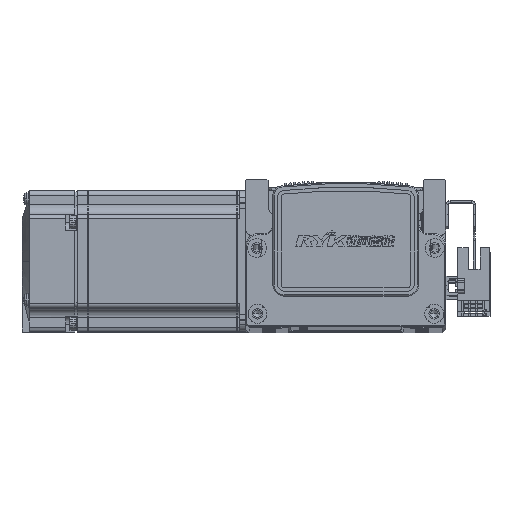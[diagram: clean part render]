
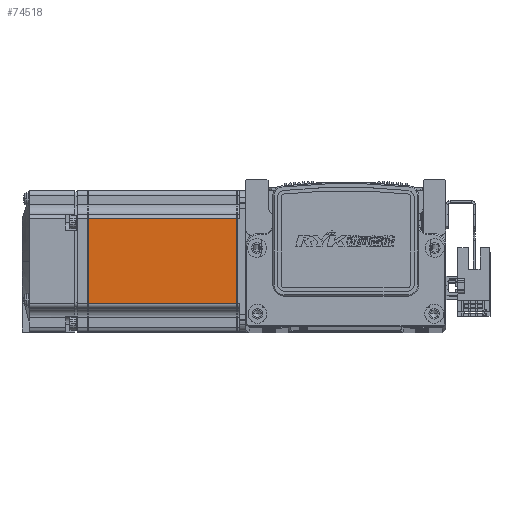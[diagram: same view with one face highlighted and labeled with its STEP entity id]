
A CAD part, top view. The second image highlights one B-rep face of the part: STEP entity #74518.
In plain terms, the highlighted planar face has unit normal (0, 0, 1) as drawn and (0, 0, -1) by its records, which use the part's own axes.
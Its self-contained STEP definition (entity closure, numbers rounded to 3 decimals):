
#11903 = AXIS2_PLACEMENT_3D ( 'NONE', #82152, #82157, #82223 ) ;
#30040 = LINE ( 'NONE', #31843, #30046 ) ;
#30045 = LINE ( 'NONE', #31832, #30096 ) ;
#30046 = VECTOR ( 'NONE', #31783, 1000. ) ;
#30051 = VECTOR ( 'NONE', #31838, 1000. ) ;
#30070 = LINE ( 'NONE', #31775, #30051 ) ;
#30096 = VECTOR ( 'NONE', #31809, 1000. ) ;
#31700 = DIRECTION ( 'NONE',  ( 0., 1., 0. ) ) ;
#31769 = CARTESIAN_POINT ( 'NONE',  ( -70.95, 25., -30. ) ) ;
#31775 = CARTESIAN_POINT ( 'NONE',  ( -6.5, -18., -30. ) ) ;
#31783 = DIRECTION ( 'NONE',  ( 0., -1., 0. ) ) ;
#31809 = DIRECTION ( 'NONE',  ( 1., 0., 0. ) ) ;
#31832 = CARTESIAN_POINT ( 'NONE',  ( -6.5, 18., -30. ) ) ;
#31838 = DIRECTION ( 'NONE',  ( -1., 0., 0. ) ) ;
#31843 = CARTESIAN_POINT ( 'NONE',  ( -7.75, 25., -30. ) ) ;
#35806 = CARTESIAN_POINT ( 'NONE',  ( -7.75, 18., -30. ) ) ;
#35848 = CARTESIAN_POINT ( 'NONE',  ( -7.75, -18., -30. ) ) ;
#35854 = CARTESIAN_POINT ( 'NONE',  ( -70.95, 18., -30. ) ) ;
#35867 = CARTESIAN_POINT ( 'NONE',  ( -70.95, -18., -30. ) ) ;
#36831 = VERTEX_POINT ( 'NONE', #35806 ) ;
#36853 = VERTEX_POINT ( 'NONE', #35867 ) ;
#36859 = VERTEX_POINT ( 'NONE', #35848 ) ;
#36891 = VERTEX_POINT ( 'NONE', #35854 ) ;
#42684 = EDGE_CURVE ( 'NONE', #36853, #36891, #43869, .T. ) ;
#42706 = EDGE_CURVE ( 'NONE', #36891, #36831, #30045, .T. ) ;
#42708 = EDGE_CURVE ( 'NONE', #36831, #36859, #30040, .T. ) ;
#42712 = EDGE_CURVE ( 'NONE', #36859, #36853, #30070, .T. ) ;
#43869 = LINE ( 'NONE', #31769, #44077 ) ;
#44077 = VECTOR ( 'NONE', #31700, 1000. ) ;
#72556 = FACE_OUTER_BOUND ( 'NONE', #84728, .T. ) ;
#74518 = ADVANCED_FACE ( 'NONE', ( #72556 ), #82112, .T. ) ;
#74880 = ORIENTED_EDGE ( 'NONE', *, *, #42712, .T. ) ;
#74887 = ORIENTED_EDGE ( 'NONE', *, *, #42706, .T. ) ;
#74900 = ORIENTED_EDGE ( 'NONE', *, *, #42708, .T. ) ;
#74969 = ORIENTED_EDGE ( 'NONE', *, *, #42684, .T. ) ;
#82112 = PLANE ( 'NONE',  #11903 ) ;
#82152 = CARTESIAN_POINT ( 'NONE',  ( -6.5, 25., -30. ) ) ;
#82157 = DIRECTION ( 'NONE',  ( 0., 0., -1. ) ) ;
#82223 = DIRECTION ( 'NONE',  ( -1., 0., 0. ) ) ;
#84728 = EDGE_LOOP ( 'NONE', ( #74900, #74880, #74969, #74887 ) ) ;
